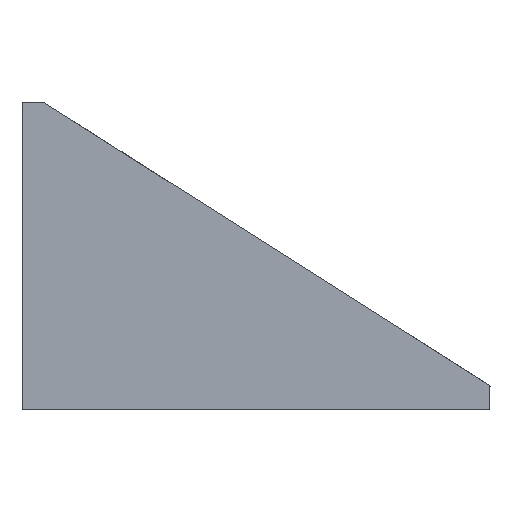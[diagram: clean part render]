
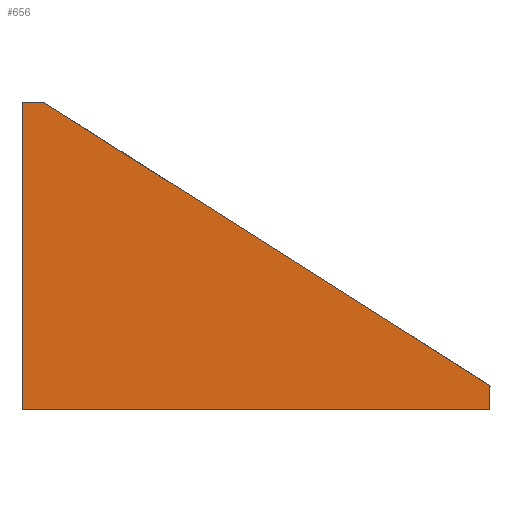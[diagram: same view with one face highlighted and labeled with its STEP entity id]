
A CAD part, top view. The second image highlights one B-rep face of the part: STEP entity #656.
In plain terms, the highlighted planar face has unit normal (0, 0, 1).
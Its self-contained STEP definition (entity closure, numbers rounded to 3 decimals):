
#9 = DIRECTION ( 'NONE',  ( 1., 0., 0. ) ) ;
#17 = VERTEX_POINT ( 'NONE', #107 ) ;
#36 = CARTESIAN_POINT ( 'NONE',  ( 82., 4.09, 0. ) ) ;
#77 = VERTEX_POINT ( 'NONE', #36 ) ;
#81 = DIRECTION ( 'NONE',  ( -0.844, 0.536, 0. ) ) ;
#89 = CARTESIAN_POINT ( 'NONE',  ( 82., 0., 0. ) ) ;
#107 = CARTESIAN_POINT ( 'NONE',  ( 82., 0., 0. ) ) ;
#117 = FACE_OUTER_BOUND ( 'NONE', #506, .T. ) ;
#124 = PLANE ( 'NONE',  #772 ) ;
#155 = CIRCLE ( 'NONE', #614, 0.2 ) ;
#167 = EDGE_CURVE ( 'NONE', #17, #77, #783, .T. ) ;
#170 = VECTOR ( 'NONE', #431, 1000. ) ;
#179 = CARTESIAN_POINT ( 'NONE',  ( 0., 0., 0. ) ) ;
#196 = LINE ( 'NONE', #445, #703 ) ;
#200 = VECTOR ( 'NONE', #238, 1000. ) ;
#238 = DIRECTION ( 'NONE',  ( -0.999, 0.035, 0. ) ) ;
#265 = ORIENTED_EDGE ( 'NONE', *, *, #715, .T. ) ;
#314 = CARTESIAN_POINT ( 'NONE',  ( 3.998, 53.76, 0. ) ) ;
#332 = DIRECTION ( 'NONE',  ( 0., 0., 1. ) ) ;
#347 = EDGE_CURVE ( 'NONE', #621, #391, #804, .T. ) ;
#352 = CARTESIAN_POINT ( 'NONE',  ( 0., 53.9, 0. ) ) ;
#362 = ORIENTED_EDGE ( 'NONE', *, *, #781, .T. ) ;
#369 = VECTOR ( 'NONE', #612, 1000. ) ;
#376 = ORIENTED_EDGE ( 'NONE', *, *, #347, .T. ) ;
#380 = EDGE_CURVE ( 'NONE', #77, #438, #155, .T. ) ;
#390 = VERTEX_POINT ( 'NONE', #712 ) ;
#391 = VERTEX_POINT ( 'NONE', #352 ) ;
#411 = DIRECTION ( 'NONE',  ( 0., 1., 0. ) ) ;
#412 = DIRECTION ( 'NONE',  ( 0., 0., 1. ) ) ;
#431 = DIRECTION ( 'NONE',  ( 1., 0., 0. ) ) ;
#438 = VERTEX_POINT ( 'NONE', #534 ) ;
#445 = CARTESIAN_POINT ( 'NONE',  ( 81.907, 4.259, 0. ) ) ;
#482 = ORIENTED_EDGE ( 'NONE', *, *, #380, .T. ) ;
#495 = CARTESIAN_POINT ( 'NONE',  ( 3.998, 53.76, 0. ) ) ;
#498 = LINE ( 'NONE', #179, #170 ) ;
#506 = EDGE_LOOP ( 'NONE', ( #362, #696, #482, #265, #376, #638 ) ) ;
#523 = EDGE_CURVE ( 'NONE', #391, #390, #532, .T. ) ;
#532 = LINE ( 'NONE', #779, #369 ) ;
#534 = CARTESIAN_POINT ( 'NONE',  ( 81.907, 4.259, 0. ) ) ;
#535 = VECTOR ( 'NONE', #411, 1000. ) ;
#543 = DIRECTION ( 'NONE',  ( 1., 0., 0. ) ) ;
#612 = DIRECTION ( 'NONE',  ( 0., -1., 0. ) ) ;
#614 = AXIS2_PLACEMENT_3D ( 'NONE', #761, #412, #543 ) ;
#621 = VERTEX_POINT ( 'NONE', #314 ) ;
#626 = CARTESIAN_POINT ( 'NONE',  ( 81.8, 4.09, 0. ) ) ;
#638 = ORIENTED_EDGE ( 'NONE', *, *, #523, .T. ) ;
#656 = ADVANCED_FACE ( 'NONE', ( #117 ), #124, .T. ) ;
#696 = ORIENTED_EDGE ( 'NONE', *, *, #167, .T. ) ;
#703 = VECTOR ( 'NONE', #81, 1000. ) ;
#712 = CARTESIAN_POINT ( 'NONE',  ( 0., 0., 0. ) ) ;
#715 = EDGE_CURVE ( 'NONE', #438, #621, #196, .T. ) ;
#761 = CARTESIAN_POINT ( 'NONE',  ( 81.8, 4.09, 0. ) ) ;
#772 = AXIS2_PLACEMENT_3D ( 'NONE', #626, #332, #9 ) ;
#779 = CARTESIAN_POINT ( 'NONE',  ( 0., 53.9, 0. ) ) ;
#781 = EDGE_CURVE ( 'NONE', #390, #17, #498, .T. ) ;
#783 = LINE ( 'NONE', #89, #535 ) ;
#804 = LINE ( 'NONE', #495, #200 ) ;
